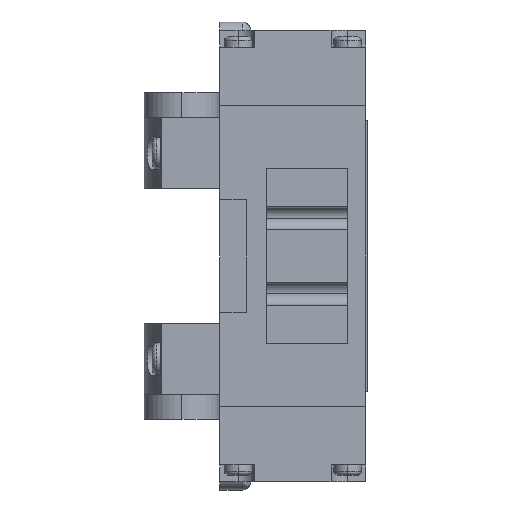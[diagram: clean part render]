
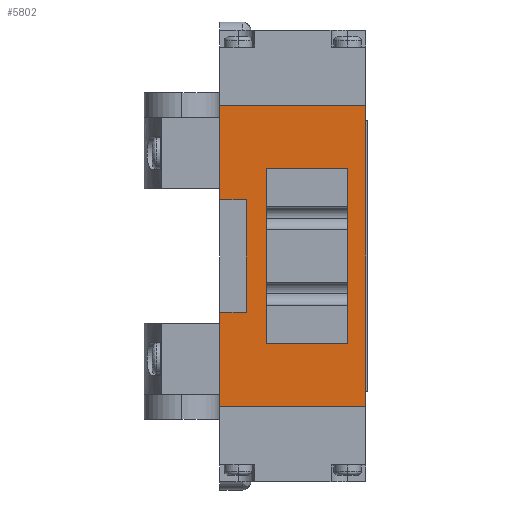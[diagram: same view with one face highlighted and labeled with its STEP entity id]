
A CAD part, left-side view. The second image highlights one B-rep face of the part: STEP entity #5802.
In plain terms, the highlighted planar face has unit normal (-1, 0, 0).
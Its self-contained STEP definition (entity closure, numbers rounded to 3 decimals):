
#125 = EDGE_LOOP ( 'NONE', ( #9757, #2205, #10020, #1179 ) ) ;
#325 = CARTESIAN_POINT ( 'NONE',  ( -20., 10.75, -22.5 ) ) ;
#375 = CARTESIAN_POINT ( 'NONE',  ( -20., 10.75, -72. ) ) ;
#644 = VERTEX_POINT ( 'NONE', #8415 ) ;
#748 = DIRECTION ( 'NONE',  ( 0., 0., 1. ) ) ;
#763 = CARTESIAN_POINT ( 'NONE',  ( -20., 17.15, -72. ) ) ;
#864 = VERTEX_POINT ( 'NONE', #10558 ) ;
#873 = ORIENTED_EDGE ( 'NONE', *, *, #919, .T. ) ;
#919 = EDGE_CURVE ( 'NONE', #12341, #8436, #12295, .T. ) ;
#1116 = LINE ( 'NONE', #6420, #8410 ) ;
#1163 = ORIENTED_EDGE ( 'NONE', *, *, #11097, .T. ) ;
#1179 = ORIENTED_EDGE ( 'NONE', *, *, #6681, .T. ) ;
#1238 = EDGE_CURVE ( 'NONE', #5870, #12440, #2083, .T. ) ;
#1318 = CARTESIAN_POINT ( 'NONE',  ( -20., 17.15, 0. ) ) ;
#1584 = DIRECTION ( 'NONE',  ( 0., 0., 1. ) ) ;
#1861 = VECTOR ( 'NONE', #11691, 1000. ) ;
#2048 = VERTEX_POINT ( 'NONE', #7261 ) ;
#2083 = LINE ( 'NONE', #6311, #2192 ) ;
#2181 = VECTOR ( 'NONE', #1584, 1000. ) ;
#2192 = VECTOR ( 'NONE', #7940, 1000. ) ;
#2205 = ORIENTED_EDGE ( 'NONE', *, *, #6707, .T. ) ;
#2237 = VERTEX_POINT ( 'NONE', #6499 ) ;
#2411 = LINE ( 'NONE', #8256, #7077 ) ;
#2732 = CARTESIAN_POINT ( 'NONE',  ( -20., 17.15, -72. ) ) ;
#2794 = AXIS2_PLACEMENT_3D ( 'NONE', #8918, #7043, #7002 ) ;
#3693 = VECTOR ( 'NONE', #11556, 1000. ) ;
#3798 = EDGE_CURVE ( 'NONE', #12440, #644, #6764, .T. ) ;
#3813 = FACE_BOUND ( 'NONE', #125, .T. ) ;
#3991 = ORIENTED_EDGE ( 'NONE', *, *, #1238, .T. ) ;
#4048 = CARTESIAN_POINT ( 'NONE',  ( -20., 17.15, -72. ) ) ;
#4332 = DIRECTION ( 'NONE',  ( 0., 0., -1. ) ) ;
#4360 = EDGE_CURVE ( 'NONE', #864, #2048, #12234, .T. ) ;
#4445 = LINE ( 'NONE', #375, #1861 ) ;
#4771 = ORIENTED_EDGE ( 'NONE', *, *, #6191, .T. ) ;
#5099 = EDGE_CURVE ( 'NONE', #2237, #10991, #8264, .T. ) ;
#5376 = VECTOR ( 'NONE', #6050, 1000. ) ;
#5802 = ADVANCED_FACE ( 'NONE', ( #3813, #5840 ), #7127, .T. ) ;
#5840 = FACE_OUTER_BOUND ( 'NONE', #11852, .T. ) ;
#5870 = VERTEX_POINT ( 'NONE', #4048 ) ;
#5896 = CARTESIAN_POINT ( 'NONE',  ( -20., 10.75, -49.5 ) ) ;
#5964 = CARTESIAN_POINT ( 'NONE',  ( -20., -17.85, -72. ) ) ;
#6016 = DIRECTION ( 'NONE',  ( 0., 0., 1. ) ) ;
#6050 = DIRECTION ( 'NONE',  ( 0., 1., 0. ) ) ;
#6125 = CARTESIAN_POINT ( 'NONE',  ( -20., 17.15, -57. ) ) ;
#6191 = EDGE_CURVE ( 'NONE', #864, #11056, #11649, .T. ) ;
#6209 = ORIENTED_EDGE ( 'NONE', *, *, #7593, .T. ) ;
#6283 = DIRECTION ( 'NONE',  ( 0., -1., 0. ) ) ;
#6311 = CARTESIAN_POINT ( 'NONE',  ( -20., 17.15, -72. ) ) ;
#6415 = CARTESIAN_POINT ( 'NONE',  ( -20., 6.05, -57. ) ) ;
#6420 = CARTESIAN_POINT ( 'NONE',  ( -20., 17.15, -15. ) ) ;
#6499 = CARTESIAN_POINT ( 'NONE',  ( -20., -13.45, -15. ) ) ;
#6681 = EDGE_CURVE ( 'NONE', #11681, #2237, #1116, .T. ) ;
#6707 = EDGE_CURVE ( 'NONE', #10991, #12744, #8079, .T. ) ;
#6764 = LINE ( 'NONE', #5964, #6943 ) ;
#6802 = CARTESIAN_POINT ( 'NONE',  ( -20., 6.05, -15. ) ) ;
#6917 = ORIENTED_EDGE ( 'NONE', *, *, #4360, .F. ) ;
#6943 = VECTOR ( 'NONE', #6016, 1000. ) ;
#7002 = DIRECTION ( 'NONE',  ( 0., 0., 1. ) ) ;
#7043 = DIRECTION ( 'NONE',  ( -1., 0., 0. ) ) ;
#7077 = VECTOR ( 'NONE', #7766, 1000. ) ;
#7127 = PLANE ( 'NONE',  #2794 ) ;
#7261 = CARTESIAN_POINT ( 'NONE',  ( -20., 17.15, 0. ) ) ;
#7593 = EDGE_CURVE ( 'NONE', #11056, #12341, #4445, .T. ) ;
#7732 = ORIENTED_EDGE ( 'NONE', *, *, #9548, .F. ) ;
#7766 = DIRECTION ( 'NONE',  ( 0., 0., 1. ) ) ;
#7940 = DIRECTION ( 'NONE',  ( 0., -1., 0. ) ) ;
#8043 = CARTESIAN_POINT ( 'NONE',  ( -20., -13.45, -57. ) ) ;
#8079 = LINE ( 'NONE', #6125, #5376 ) ;
#8119 = ORIENTED_EDGE ( 'NONE', *, *, #3798, .T. ) ;
#8256 = CARTESIAN_POINT ( 'NONE',  ( -20., 6.05, -72. ) ) ;
#8264 = LINE ( 'NONE', #9463, #9567 ) ;
#8410 = VECTOR ( 'NONE', #6283, 1000. ) ;
#8415 = CARTESIAN_POINT ( 'NONE',  ( -20., -17.85, 0. ) ) ;
#8436 = VERTEX_POINT ( 'NONE', #9203 ) ;
#8504 = EDGE_CURVE ( 'NONE', #12744, #11681, #2411, .T. ) ;
#8918 = CARTESIAN_POINT ( 'NONE',  ( -20., 17.15, -72. ) ) ;
#9203 = CARTESIAN_POINT ( 'NONE',  ( -20., 17.15, -49.5 ) ) ;
#9307 = DIRECTION ( 'NONE',  ( 0., 1., 0. ) ) ;
#9463 = CARTESIAN_POINT ( 'NONE',  ( -20., -13.45, -72. ) ) ;
#9548 = EDGE_CURVE ( 'NONE', #5870, #8436, #10172, .T. ) ;
#9567 = VECTOR ( 'NONE', #4332, 1000. ) ;
#9757 = ORIENTED_EDGE ( 'NONE', *, *, #5099, .T. ) ;
#10020 = ORIENTED_EDGE ( 'NONE', *, *, #8504, .T. ) ;
#10172 = LINE ( 'NONE', #2732, #2181 ) ;
#10232 = CARTESIAN_POINT ( 'NONE',  ( -20., -17.85, -72. ) ) ;
#10445 = LINE ( 'NONE', #1318, #12729 ) ;
#10558 = CARTESIAN_POINT ( 'NONE',  ( -20., 17.15, -22.5 ) ) ;
#10991 = VERTEX_POINT ( 'NONE', #8043 ) ;
#11056 = VERTEX_POINT ( 'NONE', #325 ) ;
#11097 = EDGE_CURVE ( 'NONE', #644, #2048, #10445, .T. ) ;
#11514 = CARTESIAN_POINT ( 'NONE',  ( -20., 17.15, -22.5 ) ) ;
#11556 = DIRECTION ( 'NONE',  ( 0., -1., 0. ) ) ;
#11649 = LINE ( 'NONE', #11514, #3693 ) ;
#11681 = VERTEX_POINT ( 'NONE', #6802 ) ;
#11691 = DIRECTION ( 'NONE',  ( 0., 0., -1. ) ) ;
#11852 = EDGE_LOOP ( 'NONE', ( #1163, #6917, #4771, #6209, #873, #7732, #3991, #8119 ) ) ;
#12234 = LINE ( 'NONE', #763, #12376 ) ;
#12295 = LINE ( 'NONE', #12524, #12614 ) ;
#12341 = VERTEX_POINT ( 'NONE', #5896 ) ;
#12376 = VECTOR ( 'NONE', #748, 1000. ) ;
#12440 = VERTEX_POINT ( 'NONE', #10232 ) ;
#12449 = DIRECTION ( 'NONE',  ( 0., 1., 0. ) ) ;
#12524 = CARTESIAN_POINT ( 'NONE',  ( -20., 17.15, -49.5 ) ) ;
#12614 = VECTOR ( 'NONE', #12449, 1000. ) ;
#12729 = VECTOR ( 'NONE', #9307, 1000. ) ;
#12744 = VERTEX_POINT ( 'NONE', #6415 ) ;
